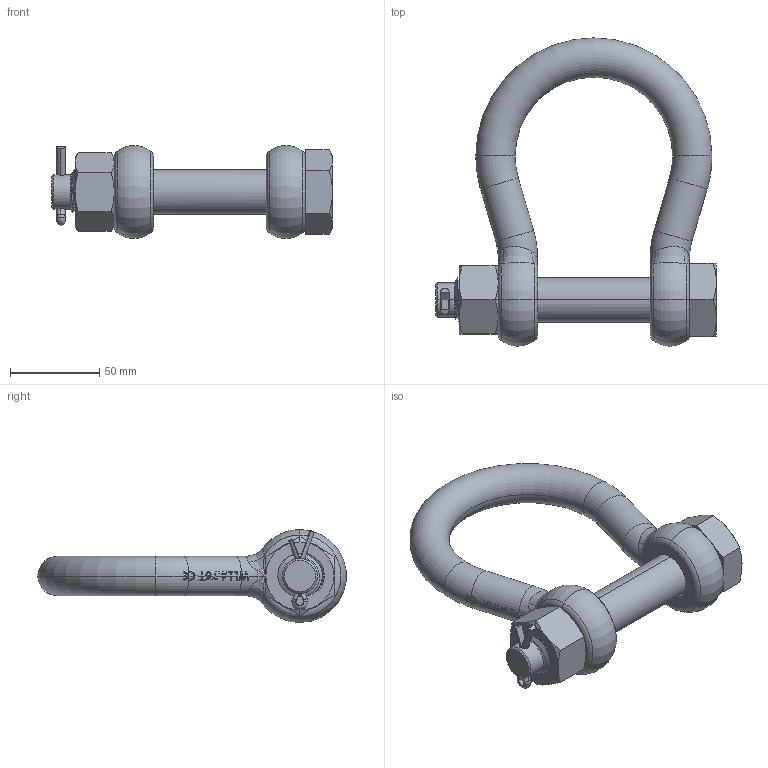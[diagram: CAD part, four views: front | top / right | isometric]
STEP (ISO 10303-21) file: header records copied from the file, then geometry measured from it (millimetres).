
FILE_DESCRIPTION(('STEP AP203'),'1');
FILE_NAME('asghmb22.stp','2022-02-17T13:06:54',('TraceParts'),('TraceParts S.A.'),'Spatial InterOp 3D',' ',' ');
FILE_SCHEMA(('CONFIG_CONTROL_DESIGN'));
Length unit declared in the file: millimetre
Products named in the file (1): 1
Bounding box: 157 x 172.31 x 52 mm (x, y, z)
Volume: 272893.8 mm3; surface area: 61775.4 mm2
Topology: 4 solids, 4 shells, 632 faces, 1671 edges, 1065 vertices
Faces by surface type: plane 269, cylinder 150, bspline 122, torus 63, cone 28
Entity records: 29137 total; most frequent: CARTESIAN_POINT 15224, ORIENTED_EDGE 3326, DIRECTION 2269, EDGE_CURVE 1663, VERTEX_POINT 1065, LINE 767, VECTOR 767, AXIS2_PLACEMENT_3D 751
